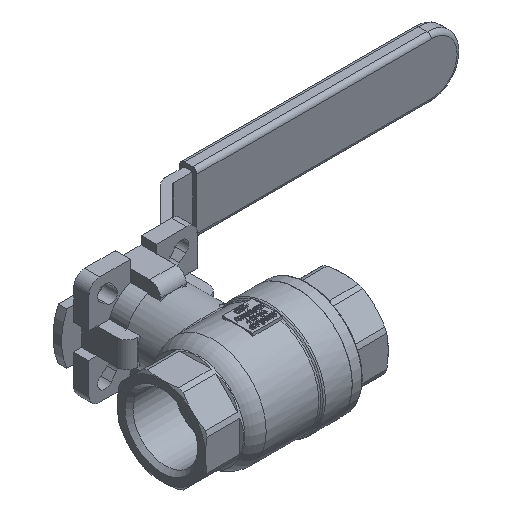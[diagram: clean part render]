
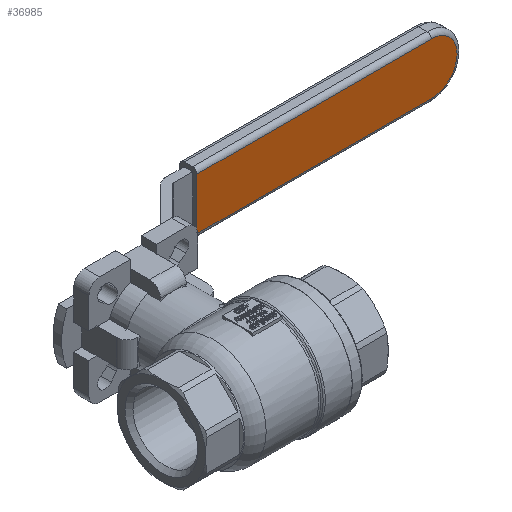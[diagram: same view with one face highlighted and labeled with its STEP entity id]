
A CAD part, isometric view. The second image highlights one B-rep face of the part: STEP entity #36985.
In plain terms, the highlighted planar face has unit normal (0, -1, 0).
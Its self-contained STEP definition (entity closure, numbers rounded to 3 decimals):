
#36868=CARTESIAN_POINT('',(57.,83.,12.));
#36869=VERTEX_POINT('',#36868);
#36877=CARTESIAN_POINT('',(166.0,83.,12.));
#36878=VERTEX_POINT('',#36877);
#36879=CARTESIAN_POINT('',(57.,83.,12.));
#36880=DIRECTION('',(1.0,0.0,0.0));
#36881=VECTOR('',#36880,109.);
#36882=LINE('',#36879,#36881);
#36883=EDGE_CURVE('',#36869,#36878,#36882,.T.);
#36908=CARTESIAN_POINT('',(166.,83.,-12.));
#36909=VERTEX_POINT('',#36908);
#36927=CARTESIAN_POINT('',(166.0,83.,0.));
#36928=DIRECTION('',(0.0,1.0,0.0));
#36929=DIRECTION('',(1.0,0.0,0.0));
#36930=AXIS2_PLACEMENT_3D('',#36927,#36928,#36929);
#36931=CIRCLE('',#36930,12.);
#36932=EDGE_CURVE('',#36878,#36909,#36931,.T.);
#36942=CARTESIAN_POINT('',(57.,83.,-12.));
#36943=VERTEX_POINT('',#36942);
#36960=CARTESIAN_POINT('',(166.,83.,-12.));
#36961=DIRECTION('',(-1.0,0.0,0.0));
#36962=VECTOR('',#36961,109.0);
#36963=LINE('',#36960,#36962);
#36964=EDGE_CURVE('',#36909,#36943,#36963,.T.);
#36969=CARTESIAN_POINT('',(57.,83.,14.));
#36970=DIRECTION('',(0.0,-1.0,0.0));
#36971=DIRECTION('',(0.0,0.0,-1.0));
#36972=AXIS2_PLACEMENT_3D('',#36969,#36970,#36971);
#36973=PLANE('',#36972);
#36974=ORIENTED_EDGE('',*,*,#36964,.F.);
#36975=ORIENTED_EDGE('',*,*,#36932,.F.);
#36976=ORIENTED_EDGE('',*,*,#36883,.F.);
#36977=CARTESIAN_POINT('',(57.,83.,-12.));
#36978=DIRECTION('',(0.0,0.0,1.0));
#36979=VECTOR('',#36978,24.);
#36980=LINE('',#36977,#36979);
#36981=EDGE_CURVE('',#36943,#36869,#36980,.T.);
#36982=ORIENTED_EDGE('',*,*,#36981,.F.);
#36983=EDGE_LOOP('',(#36974,#36975,#36976,#36982));
#36984=FACE_OUTER_BOUND('',#36983,.T.);
#36985=ADVANCED_FACE('',(#36984),#36973,.T.);
